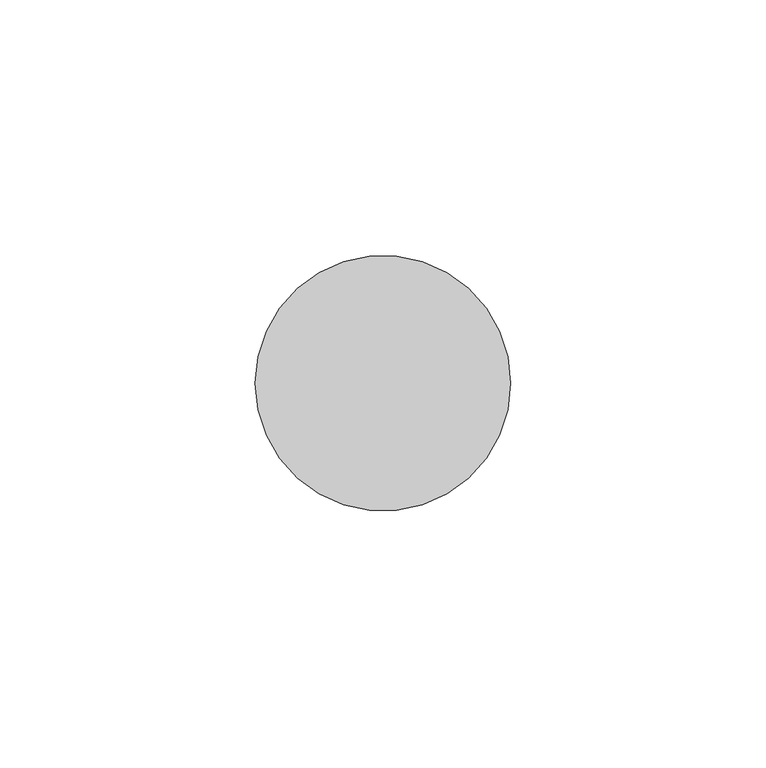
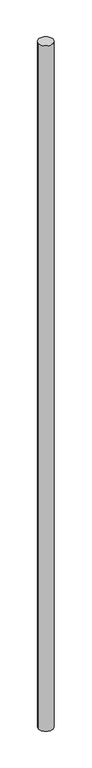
"""IFC4 building model written with IfcOpenShell, lengths in millimetres: member geometry, 圓形豎框 : 25mm 半徑."""

from ifc_helpers import new_model, si_unit, point, frame, origin, origin_2d, place, context, project, spatial, circle_curve, trimmed, segment, composite_curve, outline, extrude, source, transform, mapped, element, save


def member_1a911b9f(model_context):
    return source(origin(), model_context, "Body", "SweptSolid", [
        extrude(outline(composite_curve([segment(trimmed(circle_curve(origin_2d(), 25.0), [point((25.0, 0.0))], [point((-25.0, 0.0))], False, "CARTESIAN"), True, "CONTINUOUS"), segment(trimmed(circle_curve(origin_2d(), 25.0), [point((-25.0, 0.0))], [point((25.0, 0.0))], False, "CARTESIAN"), True, "CONTINUOUS")], self_intersect=False)), frame((0.0, 0.0, -2567.3104651), z_axis=(0.0, 0.0, 1.0), x_axis=(1.0, 0.0, 0.0)), (0.0, 0.0, 1.0), 2567.3104651),
    ])


if __name__ == "__main__":
    model = new_model("IFC4")
    model_context = context("Model", 3, world=origin())
    ifc_project = project(units=[si_unit("LENGTHUNIT", "METRE", prefix="MILLI")], contexts=[model_context])
    site = spatial("IfcSite", under=ifc_project)
    building = spatial("IfcBuilding", under=site)
    placement = place(None, origin())
    member_shape = member_1a911b9f(model_context)
    element("IfcMember", 1, ObjectType="圓形豎框 : 25mm 半徑", at=placement, inside=building, context=model_context, shape_type="MappedRepresentation", body=[
        mapped(member_shape, transform((0.0, 0.0, 0.0), x_axis=(1.0, 0.0, 0.0), y_axis=(0.0, 1.0, 0.0), z_axis=(0.0, 0.0, 1.0))),
    ])
    save(model, "model.ifc")
